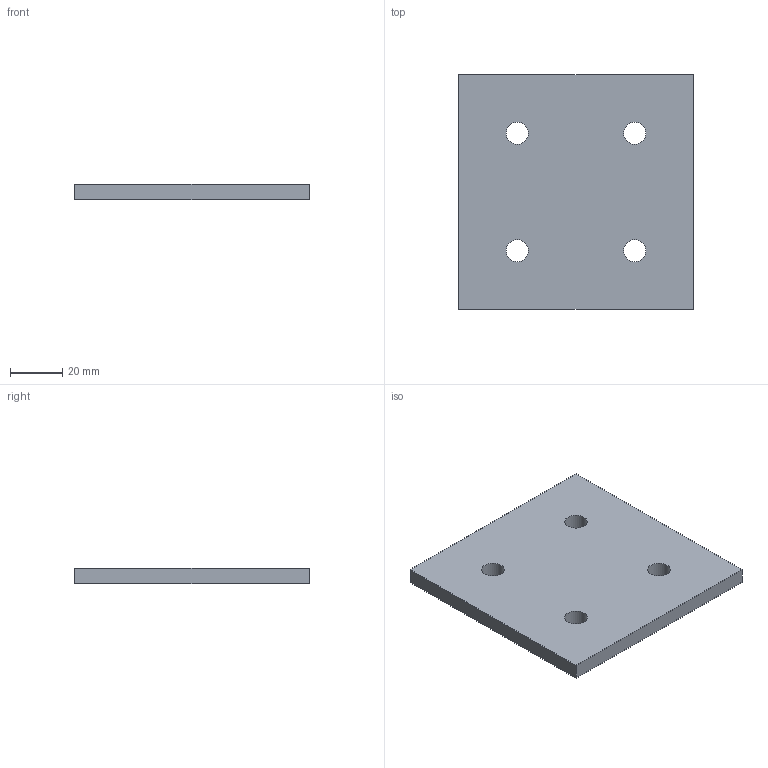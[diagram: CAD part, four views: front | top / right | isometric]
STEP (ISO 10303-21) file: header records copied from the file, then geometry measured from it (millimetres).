
FILE_DESCRIPTION(/* description */ (''),/* implementation_level */ '2;1');
FILE_NAME(/* name */ 'Plate Connector - 4 Hole - Double Slot - 45 Series - Aluminium - Silver.step',/* time_stamp */ '2025-10-18T03:39:08+03:00',/* author */ (''),/* organization */ (''),/* preprocessor_version */ 'ST-DEVELOPER v20.1',/* originating_system */ 'Autodesk Translation Framework v14.17.0.0',/* authorisation */ '');
FILE_SCHEMA (('AUTOMOTIVE_DESIGN { 1 0 10303 214 3 1 1 }'));
Length unit declared in the file: millimetre
Products named in the file (1): Plate Connector - 4 Hole - Double Slot - 45 Series - Aluminium - Silv
er
Bounding box: 90 x 90 x 6 mm (x, y, z)
Volume: 47238.1 mm3; surface area: 18546.9 mm2
Topology: 1 solids, 1 shells, 10 faces, 24 edges, 16 vertices
Faces by surface type: plane 6, cylinder 4
Full cylindrical faces by diameter (mm): 8.5 x4
Entity records: 345 total; most frequent: DIRECTION 54, CARTESIAN_POINT 51, ORIENTED_EDGE 48, EDGE_CURVE 24, AXIS2_PLACEMENT_3D 19, EDGE_LOOP 18, LINE 16, VECTOR 16
